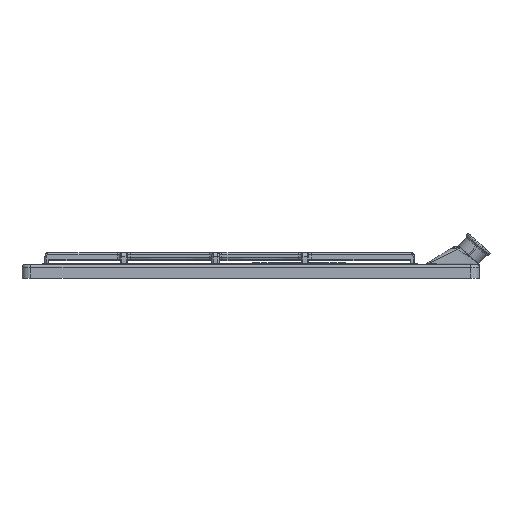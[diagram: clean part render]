
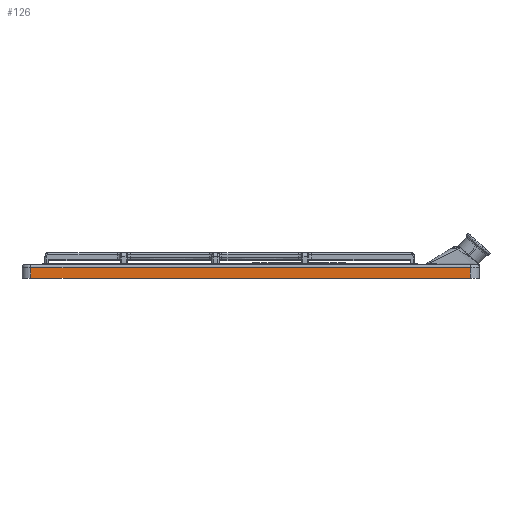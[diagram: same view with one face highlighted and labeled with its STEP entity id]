
A CAD part, left-side view. The second image highlights one B-rep face of the part: STEP entity #126.
In plain terms, the highlighted planar face has unit normal (-1, 0, 0).
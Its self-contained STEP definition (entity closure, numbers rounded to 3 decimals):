
#126=ADVANCED_FACE('',(#1102),#15945,.T.);
#1102=FACE_OUTER_BOUND('',#2048,.T.);
#2048=EDGE_LOOP('',(#3202,#3203,#3204,#3205));
#3202=ORIENTED_EDGE('',*,*,#8083,.T.);
#3203=ORIENTED_EDGE('',*,*,#8024,.F.);
#3204=ORIENTED_EDGE('',*,*,#8070,.F.);
#3205=ORIENTED_EDGE('',*,*,#8016,.F.);
#8016=EDGE_CURVE('',#13956,#13957,#12060,.T.);
#8024=EDGE_CURVE('',#13960,#13962,#12064,.T.);
#8070=EDGE_CURVE('',#13957,#13960,#12097,.T.);
#8083=EDGE_CURVE('',#13956,#13962,#12103,.T.);
#12060=B_SPLINE_CURVE_WITH_KNOTS('',1,(#22416,#22417),.UNSPECIFIED.,.F.,
 .F.,(2,2),(0.01,0.5),.UNSPECIFIED.);
#12064=B_SPLINE_CURVE_WITH_KNOTS('',1,(#22443,#22444),.UNSPECIFIED.,.F.,
 .F.,(2,2),(-0.5,-0.01),.UNSPECIFIED.);
#12097=B_SPLINE_CURVE_WITH_KNOTS('',1,(#22755,#22756),.UNSPECIFIED.,.F.,
 .F.,(2,2),(-0.015,-0.003),.UNSPECIFIED.);
#12103=B_SPLINE_CURVE_WITH_KNOTS('',1,(#22810,#22811),.UNSPECIFIED.,.F.,
 .F.,(2,2),(-0.015,-0.003),.UNSPECIFIED.);
#13956=VERTEX_POINT('',#21831);
#13957=VERTEX_POINT('',#21832);
#13960=VERTEX_POINT('',#21835);
#13962=VERTEX_POINT('',#21837);
#15945=PLANE('',#16573);
#16573=AXIS2_PLACEMENT_3D('',#19973,#17659,$);
#17659=DIRECTION('',(-1.,0.,0.));
#19973=CARTESIAN_POINT('',(-294.374,242.613,-15.01));
#21831=CARTESIAN_POINT('',(-294.374,-247.397,-15.));
#21832=CARTESIAN_POINT('',(-294.374,242.603,-15.));
#21835=CARTESIAN_POINT('',(-294.374,242.603,-3.));
#21837=CARTESIAN_POINT('',(-294.374,-247.397,-3.));
#22416=CARTESIAN_POINT('',(-294.374,-247.397,-15.));
#22417=CARTESIAN_POINT('',(-294.374,242.603,-15.));
#22443=CARTESIAN_POINT('',(-294.374,242.603,-3.));
#22444=CARTESIAN_POINT('',(-294.374,-247.397,-3.));
#22755=CARTESIAN_POINT('',(-294.374,242.603,-15.));
#22756=CARTESIAN_POINT('',(-294.374,242.603,-3.));
#22810=CARTESIAN_POINT('',(-294.374,-247.397,-15.));
#22811=CARTESIAN_POINT('',(-294.374,-247.397,-3.));
